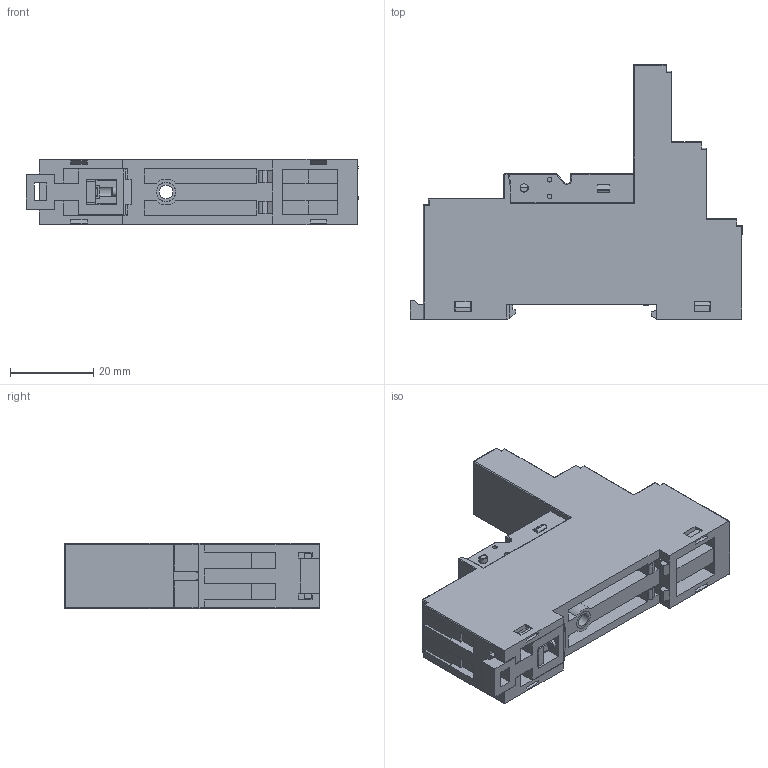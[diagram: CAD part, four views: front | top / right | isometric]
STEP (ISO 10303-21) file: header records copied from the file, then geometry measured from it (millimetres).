
FILE_DESCRIPTION (( 'STEP AP203' ), '1' );
FILE_NAME ('SRU08-E 俋倛.STEP', '2023-01-12T08:13:41', ( '' ), ( '' ), 'SwSTEP 2.0', 'SolidWorks 2018', '' );
FILE_SCHEMA (( 'CONFIG_CONTROL_DESIGN' ));
Length unit declared in the file: millimetre
Products named in the file (1): SRU08-E 俋倛
Bounding box: 79.58 x 61.06 x 15.6 mm (x, y, z)
Volume: 36503.5 mm3; surface area: 14810.8 mm2
Topology: 1 solids, 1 shells, 966 faces, 2588 edges, 1646 vertices
Faces by surface type: plane 629, cylinder 182, torus 98, cone 41, sphere 16
Entity records: 30778 total; most frequent: CARTESIAN_POINT 6811, ORIENTED_EDGE 5116, DIRECTION 4781, EDGE_CURVE 2558, VECTOR 1785, LINE 1785, VERTEX_POINT 1646, AXIS2_PLACEMENT_3D 1498
